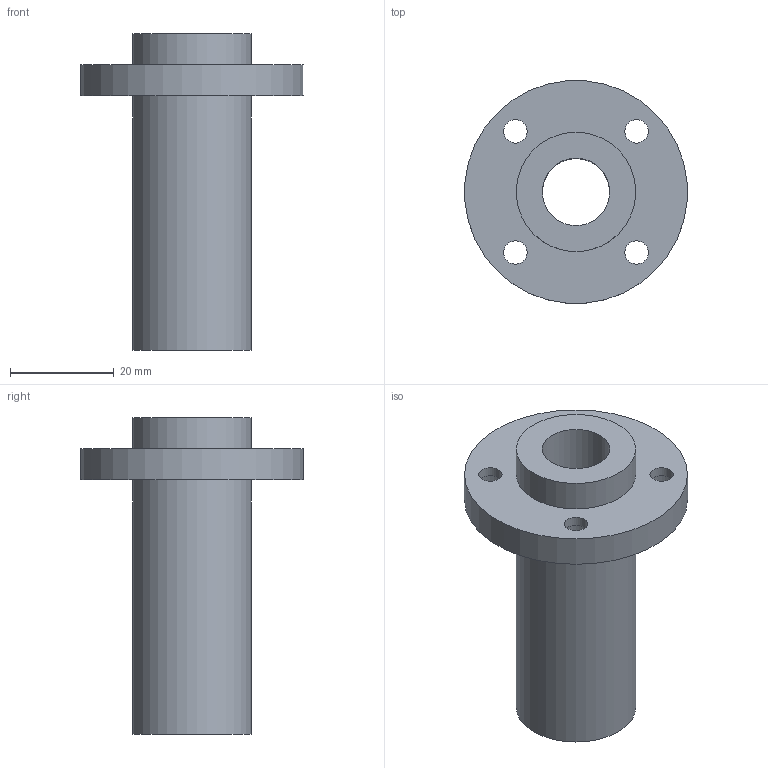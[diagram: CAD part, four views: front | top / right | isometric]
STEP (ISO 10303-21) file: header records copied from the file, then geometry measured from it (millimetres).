
FILE_DESCRIPTION(/* description */ (''),/* implementation_level */ '2;1');
FILE_NAME(/* name */ 'LMFP13LUU',/* time_stamp */ '2019-07-03T13:00:31+02:00',/* author */ ('VĂ©gh MĂˇtĂ©'),/* organization */ ('Bearing Kft'),/* preprocessor_version */ 'ST-DEVELOPER v16.7',/* originating_system */ 'DEX',/* authorisation */ $);
FILE_SCHEMA (('AUTOMOTIVE_DESIGN {1 0 10303 214 3 1 1}'));
Length unit declared in the file: millimetre
Products named in the file (1): LMFP13LUU
Bounding box: 42.84 x 42.84 x 61 mm (x, y, z)
Volume: 22620.4 mm3; surface area: 10298.2 mm2
Topology: 1 solids, 1 shells, 337 faces, 847 edges, 566 vertices
Faces by surface type: plane 260, bspline 62, cylinder 15
Full cylindrical faces by diameter (mm): 4.5 x4, 7.5 x4, 13 x1, 23 x2, 43 x1
Entity records: 12724 total; most frequent: CARTESIAN_POINT 5036, ORIENTED_EDGE 1660, DIRECTION 1288, EDGE_CURVE 830, LINE 676, VECTOR 676, VERTEX_POINT 562, EDGE_LOOP 414
